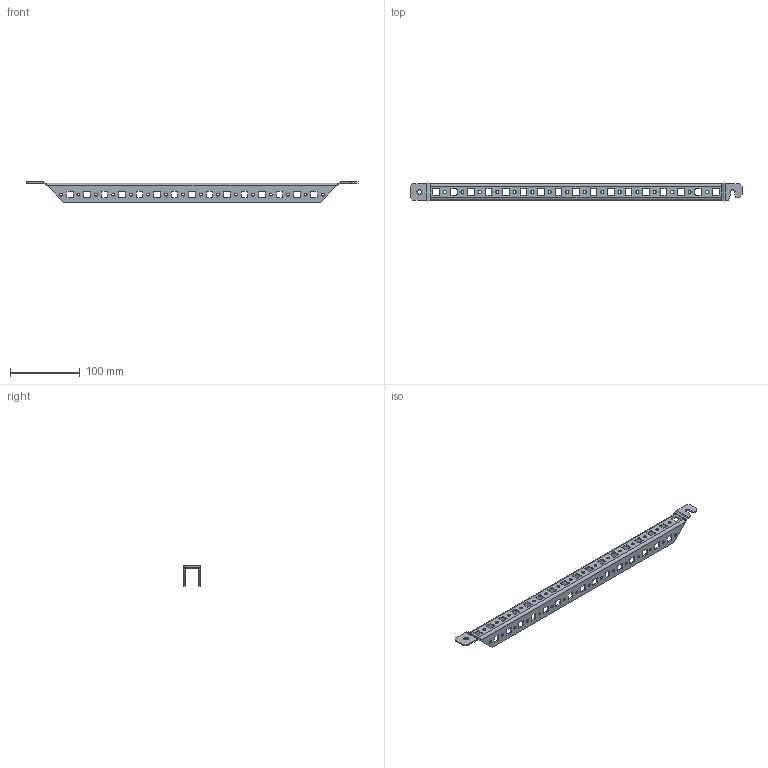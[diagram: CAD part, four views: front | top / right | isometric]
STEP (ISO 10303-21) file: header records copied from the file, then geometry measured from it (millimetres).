
FILE_DESCRIPTION (( 'STEP AP214' ), '1' );
FILE_NAME ('MG 50.03 Ðåéêà ìîíòàæíàÿ v2.STEP', '2018-06-20T09:52:49', ( '' ), ( '' ), 'SwSTEP 2.0', 'SolidWorks 2012', '' );
FILE_SCHEMA (( 'AUTOMOTIVE_DESIGN' ));
Length unit declared in the file: millimetre
Products named in the file (1): MG 50.03 Ðåéêà ìîíòàæíàÿ v2
Bounding box: 475 x 24 x 29.5 mm (x, y, z)
Volume: 50615.3 mm3; surface area: 57518.6 mm2
Topology: 1 solids, 1 shells, 552 faces, 1602 edges, 1052 vertices
Faces by surface type: cylinder 301, plane 251
Entity records: 18762 total; most frequent: DIRECTION 3310, CARTESIAN_POINT 3207, ORIENTED_EDGE 3204, EDGE_CURVE 1602, AXIS2_PLACEMENT_3D 1155, VERTEX_POINT 1052, LINE 1000, VECTOR 1000
